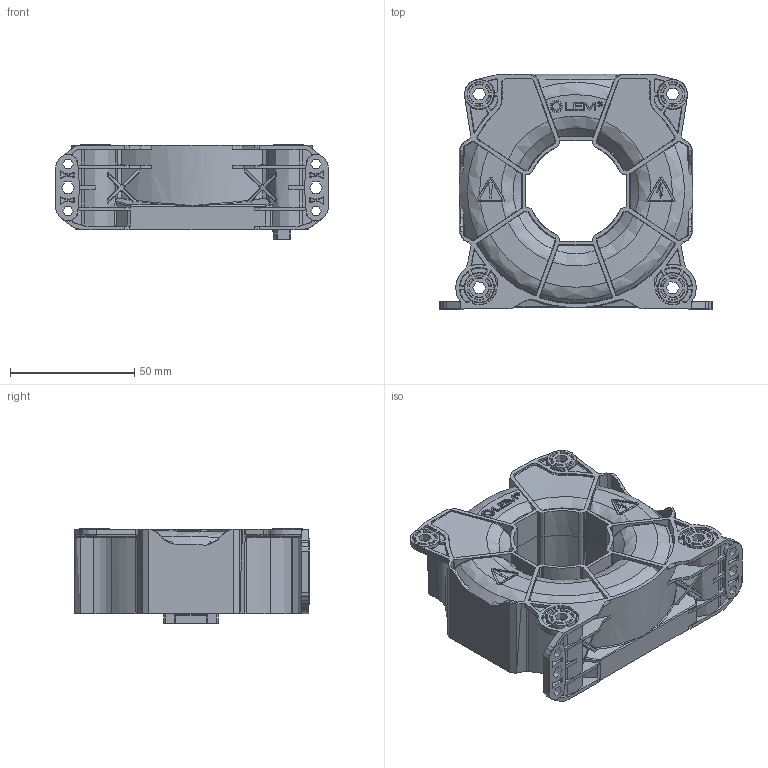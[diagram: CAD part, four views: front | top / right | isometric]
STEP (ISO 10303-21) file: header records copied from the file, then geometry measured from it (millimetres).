
FILE_DESCRIPTION(('Creo Elements/Direct Modeling STEP Export'),'2;1');
FILE_NAME('90.J9.60.0A6.0.stp','2019-09-03T11:22:05',(''),(''),'Creo Elements/Direct Modeling STEP processor for AP214 (Solid Model)','Creo Elements/Direct Modeling 20.1 10-Mar-2018 (C) Parametric Technology GmbH','');
FILE_SCHEMA(('AUTOMOTIVE_DESIGN { 1 0 10303 214 1 1 1 1 }'));
Products named in the file (2): p1
Assembly tree (1 placements, depth 2):
  p1
    p1
Bounding box: 110 x 94.8 x 38.1 mm (x, y, z)
Volume: 204089.2 mm3; surface area: 39005.9 mm2
Topology: 1 solids, 2 shells, 2445 faces, 6174 edges, 3804 vertices
Faces by surface type: bspline 895, plane 685, cylinder 594, cone 169, torus 100, sphere 2
Entity records: 179720 total; most frequent: CARTESIAN_POINT 123995, ORIENTED_EDGE 12328, DIRECTION 9954, EDGE_CURVE 6164, VERTEX_POINT 3804, AXIS2_PLACEMENT_3D 3750, EDGE_LOOP 2548, VECTOR 2454
